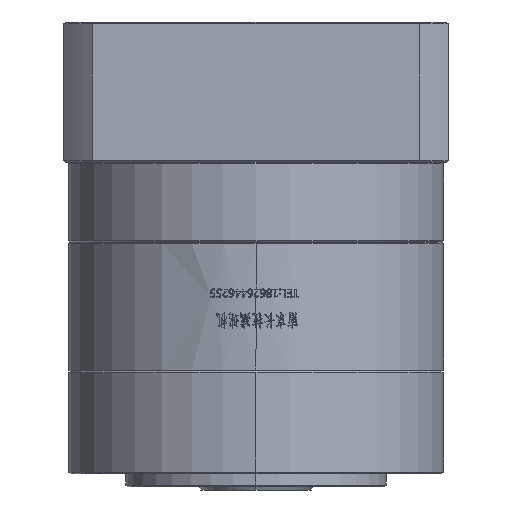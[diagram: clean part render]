
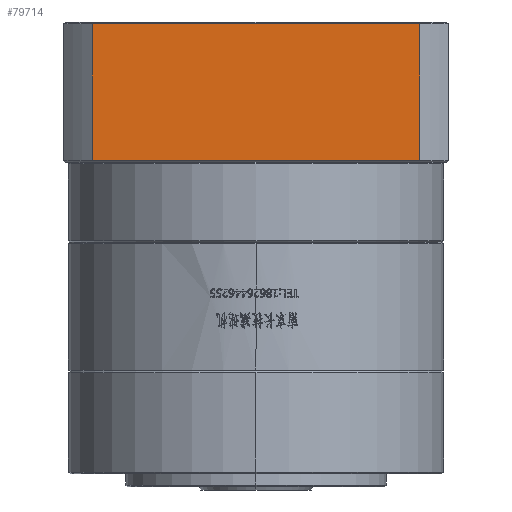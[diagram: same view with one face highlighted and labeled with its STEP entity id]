
A CAD part, front view. The second image highlights one B-rep face of the part: STEP entity #79714.
In plain terms, the highlighted planar face has unit normal (0, -1, 0).
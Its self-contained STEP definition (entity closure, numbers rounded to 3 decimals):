
#3037 = CARTESIAN_POINT ( 'NONE',  ( 94.363, 63.469, 10.071 ) ) ;
#8949 = DIRECTION ( 'NONE',  ( 0., 0., -1. ) ) ;
#15285 = EDGE_CURVE ( 'NONE', #80646, #77246, #34291, .T. ) ;
#24378 = VECTOR ( 'NONE', #8949, 1000. ) ;
#27331 = EDGE_CURVE ( 'NONE', #74151, #118121, #91963, .T. ) ;
#29727 = CARTESIAN_POINT ( 'NONE',  ( -6.141, 63.469, 10.071 ) ) ;
#31390 = ORIENTED_EDGE ( 'NONE', *, *, #27331, .T. ) ;
#31818 = EDGE_CURVE ( 'NONE', #74151, #80646, #55923, .T. ) ;
#33110 = EDGE_CURVE ( 'NONE', #77246, #118121, #104356, .T. ) ;
#34291 = LINE ( 'NONE', #3037, #81700 ) ;
#36443 = CARTESIAN_POINT ( 'NONE',  ( 94.363, 63.469, -31.929 ) ) ;
#41874 = CARTESIAN_POINT ( 'NONE',  ( 94.363, 63.469, 10.071 ) ) ;
#50377 = CARTESIAN_POINT ( 'NONE',  ( -6.141, 63.469, -31.929 ) ) ;
#55923 = LINE ( 'NONE', #68866, #112113 ) ;
#59932 = ORIENTED_EDGE ( 'NONE', *, *, #31818, .F. ) ;
#61109 = EDGE_LOOP ( 'NONE', ( #83484, #59932, #31390, #93408 ) ) ;
#62288 = DIRECTION ( 'NONE',  ( 0., 1., 0. ) ) ;
#68866 = CARTESIAN_POINT ( 'NONE',  ( -6.141, 63.469, 10.571 ) ) ;
#74151 = VERTEX_POINT ( 'NONE', #50377 ) ;
#77246 = VERTEX_POINT ( 'NONE', #41874 ) ;
#79714 = ADVANCED_FACE ( 'NONE', ( #97780 ), #99060, .F. ) ;
#80140 = AXIS2_PLACEMENT_3D ( 'NONE', #109383, #62288, #110592 ) ;
#80646 = VERTEX_POINT ( 'NONE', #29727 ) ;
#81580 = CARTESIAN_POINT ( 'NONE',  ( 94.363, 63.469, -31.929 ) ) ;
#81700 = VECTOR ( 'NONE', #97873, 1000. ) ;
#83484 = ORIENTED_EDGE ( 'NONE', *, *, #15285, .F. ) ;
#85159 = CARTESIAN_POINT ( 'NONE',  ( 94.363, 63.469, 10.571 ) ) ;
#87017 = DIRECTION ( 'NONE',  ( 0., 0., 1. ) ) ;
#91963 = LINE ( 'NONE', #81580, #109836 ) ;
#93408 = ORIENTED_EDGE ( 'NONE', *, *, #33110, .F. ) ;
#97780 = FACE_OUTER_BOUND ( 'NONE', #61109, .T. ) ;
#97873 = DIRECTION ( 'NONE',  ( 1., 0., 0. ) ) ;
#99060 = PLANE ( 'NONE',  #80140 ) ;
#100155 = DIRECTION ( 'NONE',  ( 1., 0., 0. ) ) ;
#104356 = LINE ( 'NONE', #85159, #24378 ) ;
#109383 = CARTESIAN_POINT ( 'NONE',  ( 94.363, 63.469, 10.571 ) ) ;
#109836 = VECTOR ( 'NONE', #100155, 1000. ) ;
#110592 = DIRECTION ( 'NONE',  ( -1., 0., 0. ) ) ;
#112113 = VECTOR ( 'NONE', #87017, 1000. ) ;
#118121 = VERTEX_POINT ( 'NONE', #36443 ) ;
